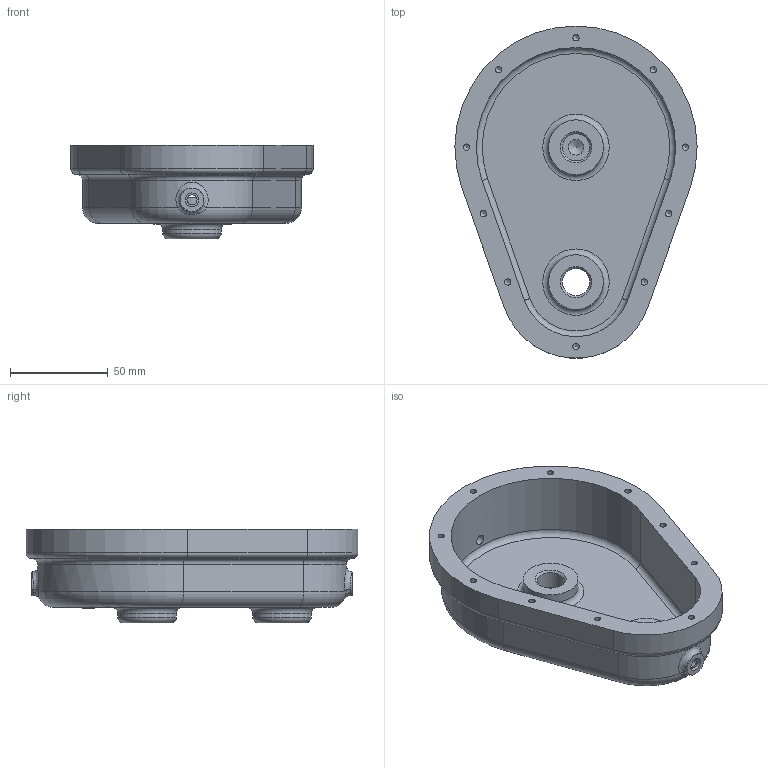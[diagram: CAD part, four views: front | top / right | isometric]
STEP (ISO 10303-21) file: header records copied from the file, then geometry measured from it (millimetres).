
FILE_DESCRIPTION(/* description */ (''),/* implementation_level */ '2;1');
FILE_NAME(/* name */ '',/* time_stamp */ '2025-01-06T15:40:02+09:00',/* author */ ('jhkim'),/* organization */ (''),/* preprocessor_version */ 'ST-DEVELOPER v20',/* originating_system */ 'Autodesk Inventor 2025',/* authorisation */ '');
FILE_SCHEMA (('AUTOMOTIVE_DESIGN { 1 0 10303 214 3 1 1 }'));
Length unit declared in the file: millimetre
Products named in the file (1): 본체
Bounding box: 124 x 169.87 x 48 mm (x, y, z)
Volume: 187876.2 mm3; surface area: 64625.8 mm2
Topology: 1 solids, 1 shells, 284 faces, 728 edges, 472 vertices
Faces by surface type: plane 136, bspline 80, cylinder 39, torus 15, cone 14
Full cylindrical faces by diameter (mm): 3.242 x10, 5.188 x2, 7 x2, 14 x2, 20 x1, 28 x2, 30 x2
Entity records: 9016 total; most frequent: CARTESIAN_POINT 2585, ORIENTED_EDGE 1434, DIRECTION 1067, EDGE_CURVE 717, VERTEX_POINT 472, LINE 443, VECTOR 443, EDGE_LOOP 327
